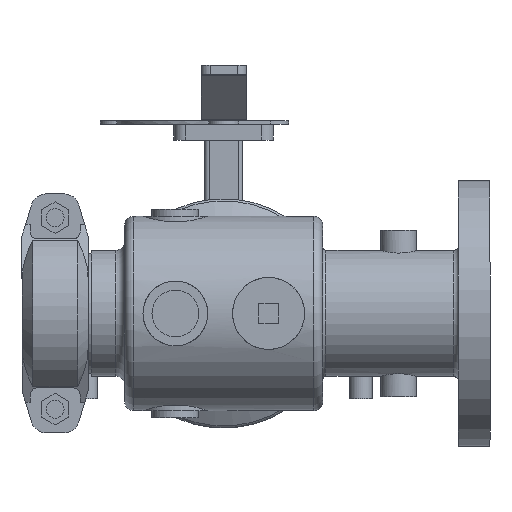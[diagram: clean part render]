
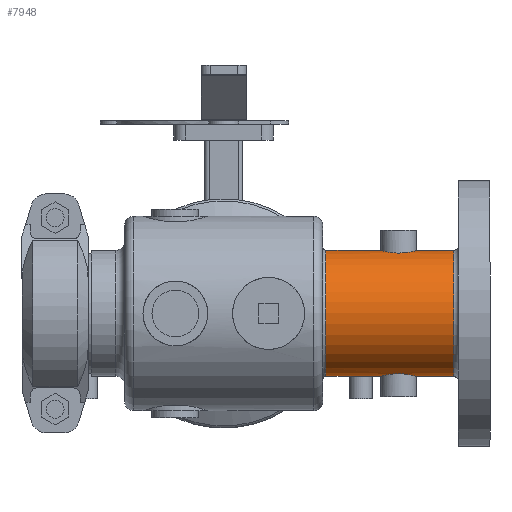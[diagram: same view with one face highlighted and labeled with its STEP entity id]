
A CAD part, front view. The second image highlights one B-rep face of the part: STEP entity #7948.
In plain terms, the highlighted cylindrical face has radius 44.45 mm (diameter 88.9 mm), a full revolution.
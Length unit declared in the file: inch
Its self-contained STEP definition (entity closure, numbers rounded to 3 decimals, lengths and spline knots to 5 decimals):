
#388=FACE_BOUND('',#1041,.T.);
#389=FACE_BOUND('',#1042,.T.);
#482=B_SPLINE_CURVE_WITH_KNOTS('',3,(#12947,#12948,#12949,#12950,#12951,
#12952,#12953,#12954,#12955,#12956,#12957,#12958,#12959,#12960,#12961,#12962,
#12963,#12964,#12965,#12966,#12967,#12968,#12969,#12970,#12971,#12972),
 .UNSPECIFIED.,.F.,.F.,(4,2,2,2,2,2,2,2,2,2,2,2,4),(0.,0.48136,
0.96271,1.44395,1.92519,2.40643,2.88767,
3.36903,3.85039,4.33175,4.8131,5.29434,
5.77558),.UNSPECIFIED.);
#483=B_SPLINE_CURVE_WITH_KNOTS('',3,(#12973,#12974,#12975,#12976,#12977,
#12978,#12979,#12980,#12981,#12982),.UNSPECIFIED.,.F.,.F.,(4,2,2,2,4),(5.77558,
6.25682,6.73806,7.21942,7.70078),
 .UNSPECIFIED.);
#484=B_SPLINE_CURVE_WITH_KNOTS('',3,(#12985,#12986,#12987,#12988,#12989,
#12990,#12991,#12992,#12993,#12994),.UNSPECIFIED.,.F.,.F.,(4,2,2,2,4),(0.,
0.48136,0.96271,1.44395,1.92519),
 .UNSPECIFIED.);
#485=B_SPLINE_CURVE_WITH_KNOTS('',3,(#12995,#12996,#12997,#12998,#12999,
#13000,#13001,#13002,#13003,#13004,#13005,#13006,#13007,#13008,#13009,#13010,
#13011,#13012,#13013,#13014,#13015,#13016,#13017,#13018,#13019,#13020),
 .UNSPECIFIED.,.F.,.F.,(4,2,2,2,2,2,2,2,2,2,2,2,4),(1.92519,2.40643,
2.88767,3.36903,3.85039,4.33175,4.8131,
5.29434,5.77558,6.25682,6.73806,7.21942,
7.70078),.UNSPECIFIED.);
#574=FACE_OUTER_BOUND('',#1040,.T.);
#1040=EDGE_LOOP('',(#5332,#5333,#5334,#5335,#5336,#5337,#5338,#5339));
#1041=EDGE_LOOP('',(#5340,#5341));
#1042=EDGE_LOOP('',(#5342,#5343));
#1570=CIRCLE('',#8604,1.75);
#1572=CIRCLE('',#8606,1.75);
#1573=CIRCLE('',#8607,1.75);
#1576=CIRCLE('',#8612,1.75);
#1577=CIRCLE('',#8613,1.75);
#1578=CIRCLE('',#8614,1.75);
#2002=LINE('',#12944,#2588);
#2588=VECTOR('',#9814,1.75);
#3215=VERTEX_POINT('',#12763);
#3216=VERTEX_POINT('',#12764);
#3217=VERTEX_POINT('',#12767);
#3222=VERTEX_POINT('',#12813);
#3223=VERTEX_POINT('',#12815);
#3224=VERTEX_POINT('',#12817);
#3252=VERTEX_POINT('',#12945);
#3253=VERTEX_POINT('',#12946);
#3254=VERTEX_POINT('',#12983);
#3255=VERTEX_POINT('',#12984);
#4008=EDGE_CURVE('',#3215,#3216,#1570,.T.);
#4010=EDGE_CURVE('',#3216,#3217,#1572,.T.);
#4011=EDGE_CURVE('',#3217,#3215,#1573,.T.);
#4016=EDGE_CURVE('',#3223,#3222,#1576,.T.);
#4017=EDGE_CURVE('',#3224,#3223,#1577,.T.);
#4018=EDGE_CURVE('',#3222,#3224,#1578,.T.);
#4059=EDGE_CURVE('',#3217,#3224,#2002,.T.);
#4060=EDGE_CURVE('',#3252,#3253,#482,.T.);
#4061=EDGE_CURVE('',#3253,#3252,#483,.T.);
#4062=EDGE_CURVE('',#3254,#3255,#484,.T.);
#4063=EDGE_CURVE('',#3255,#3254,#485,.T.);
#5332=ORIENTED_EDGE('',*,*,#4008,.F.);
#5333=ORIENTED_EDGE('',*,*,#4011,.F.);
#5334=ORIENTED_EDGE('',*,*,#4059,.T.);
#5335=ORIENTED_EDGE('',*,*,#4017,.T.);
#5336=ORIENTED_EDGE('',*,*,#4016,.T.);
#5337=ORIENTED_EDGE('',*,*,#4018,.T.);
#5338=ORIENTED_EDGE('',*,*,#4059,.F.);
#5339=ORIENTED_EDGE('',*,*,#4010,.F.);
#5340=ORIENTED_EDGE('',*,*,#4060,.T.);
#5341=ORIENTED_EDGE('',*,*,#4061,.T.);
#5342=ORIENTED_EDGE('',*,*,#4062,.T.);
#5343=ORIENTED_EDGE('',*,*,#4063,.T.);
#7309=CYLINDRICAL_SURFACE('',#8666,1.75);
#7948=ADVANCED_FACE('',(#574,#388,#389),#7309,.T.);
#8604=AXIS2_PLACEMENT_3D('',#12765,#9679,#9680);
#8606=AXIS2_PLACEMENT_3D('',#12768,#9683,#9684);
#8607=AXIS2_PLACEMENT_3D('',#12769,#9685,#9686);
#8612=AXIS2_PLACEMENT_3D('',#12816,#9695,#9696);
#8613=AXIS2_PLACEMENT_3D('',#12818,#9697,#9698);
#8614=AXIS2_PLACEMENT_3D('',#12819,#9699,#9700);
#8666=AXIS2_PLACEMENT_3D('',#12943,#9812,#9813);
#9679=DIRECTION('center_axis',(1.,0.,0.));
#9680=DIRECTION('ref_axis',(0.,0.,-1.));
#9683=DIRECTION('center_axis',(1.,0.,0.));
#9684=DIRECTION('ref_axis',(0.,0.,-1.));
#9685=DIRECTION('center_axis',(1.,0.,0.));
#9686=DIRECTION('ref_axis',(0.,0.,-1.));
#9695=DIRECTION('center_axis',(1.,0.,0.));
#9696=DIRECTION('ref_axis',(0.,0.,-1.));
#9697=DIRECTION('center_axis',(1.,0.,0.));
#9698=DIRECTION('ref_axis',(0.,0.,-1.));
#9699=DIRECTION('center_axis',(1.,0.,0.));
#9700=DIRECTION('ref_axis',(0.,0.,-1.));
#9812=DIRECTION('center_axis',(1.,0.,0.));
#9813=DIRECTION('ref_axis',(0.,1.,0.));
#9814=DIRECTION('',(-1.,0.,0.));
#12763=CARTESIAN_POINT('',(6.39,1.75,0.));
#12764=CARTESIAN_POINT('',(6.39,0.,1.75));
#12765=CARTESIAN_POINT('Origin',(6.39,0.,0.));
#12767=CARTESIAN_POINT('',(6.39,-1.75,0.));
#12768=CARTESIAN_POINT('Origin',(6.39,0.,0.));
#12769=CARTESIAN_POINT('Origin',(6.39,0.,0.));
#12813=CARTESIAN_POINT('',(2.84,0.,1.75));
#12815=CARTESIAN_POINT('',(2.84,1.75,0.));
#12816=CARTESIAN_POINT('Origin',(2.84,0.,0.));
#12817=CARTESIAN_POINT('',(2.84,-1.75,0.));
#12818=CARTESIAN_POINT('Origin',(2.84,0.,0.));
#12819=CARTESIAN_POINT('Origin',(2.84,0.,0.));
#12943=CARTESIAN_POINT('Origin',(4.945,0.,0.));
#12944=CARTESIAN_POINT('',(4.945,-1.75,0.));
#12945=CARTESIAN_POINT('',(4.86,-0.5,1.67705));
#12946=CARTESIAN_POINT('',(5.36,0.,1.75));
#12947=CARTESIAN_POINT('Ctrl Pts',(4.86,-0.5,1.67705));
#12948=CARTESIAN_POINT('Ctrl Pts',(4.79683,-0.5,1.67705));
#12949=CARTESIAN_POINT('Ctrl Pts',(4.72971,-0.4873,1.68099));
#12950=CARTESIAN_POINT('Ctrl Pts',(4.60663,-0.43617,
1.69498));
#12951=CARTESIAN_POINT('Ctrl Pts',(4.55065,-0.39775,
1.7048));
#12952=CARTESIAN_POINT('Ctrl Pts',(4.46226,-0.30936,
1.72303));
#12953=CARTESIAN_POINT('Ctrl Pts',(4.42383,-0.25337,
1.73267));
#12954=CARTESIAN_POINT('Ctrl Pts',(4.37269,-0.13028,
1.74624));
#12955=CARTESIAN_POINT('Ctrl Pts',(4.36,-0.06315,1.75));
#12956=CARTESIAN_POINT('Ctrl Pts',(4.36,0.06315,1.75));
#12957=CARTESIAN_POINT('Ctrl Pts',(4.37269,0.13028,1.74624));
#12958=CARTESIAN_POINT('Ctrl Pts',(4.42383,0.25337,1.73267));
#12959=CARTESIAN_POINT('Ctrl Pts',(4.46226,0.30936,1.72303));
#12960=CARTESIAN_POINT('Ctrl Pts',(4.55065,0.39775,1.7048));
#12961=CARTESIAN_POINT('Ctrl Pts',(4.60663,0.43617,1.69498));
#12962=CARTESIAN_POINT('Ctrl Pts',(4.72971,0.4873,1.68099));
#12963=CARTESIAN_POINT('Ctrl Pts',(4.79683,0.5,1.67705));
#12964=CARTESIAN_POINT('Ctrl Pts',(4.92317,0.5,1.67705));
#12965=CARTESIAN_POINT('Ctrl Pts',(4.99029,0.4873,1.68099));
#12966=CARTESIAN_POINT('Ctrl Pts',(5.11337,0.43617,1.69498));
#12967=CARTESIAN_POINT('Ctrl Pts',(5.16935,0.39775,1.7048));
#12968=CARTESIAN_POINT('Ctrl Pts',(5.25774,0.30936,1.72303));
#12969=CARTESIAN_POINT('Ctrl Pts',(5.29617,0.25337,1.73267));
#12970=CARTESIAN_POINT('Ctrl Pts',(5.34731,0.13028,1.74624));
#12971=CARTESIAN_POINT('Ctrl Pts',(5.36,0.06315,1.75));
#12972=CARTESIAN_POINT('Ctrl Pts',(5.36,0.,1.75));
#12973=CARTESIAN_POINT('Ctrl Pts',(5.36,0.,1.75));
#12974=CARTESIAN_POINT('Ctrl Pts',(5.36,-0.06315,1.75));
#12975=CARTESIAN_POINT('Ctrl Pts',(5.34731,-0.13028,
1.74624));
#12976=CARTESIAN_POINT('Ctrl Pts',(5.29617,-0.25337,
1.73267));
#12977=CARTESIAN_POINT('Ctrl Pts',(5.25774,-0.30936,
1.72303));
#12978=CARTESIAN_POINT('Ctrl Pts',(5.16935,-0.39775,
1.7048));
#12979=CARTESIAN_POINT('Ctrl Pts',(5.11337,-0.43617,
1.69498));
#12980=CARTESIAN_POINT('Ctrl Pts',(4.99029,-0.4873,
1.68099));
#12981=CARTESIAN_POINT('Ctrl Pts',(4.92317,-0.5,1.67705));
#12982=CARTESIAN_POINT('Ctrl Pts',(4.86,-0.5,1.67705));
#12983=CARTESIAN_POINT('',(4.86,-0.5,-1.67705));
#12984=CARTESIAN_POINT('',(5.36,0.,-1.75));
#12985=CARTESIAN_POINT('Ctrl Pts',(4.86,-0.5,-1.67705));
#12986=CARTESIAN_POINT('Ctrl Pts',(4.92317,-0.5,-1.67705));
#12987=CARTESIAN_POINT('Ctrl Pts',(4.99029,-0.4873,
-1.68099));
#12988=CARTESIAN_POINT('Ctrl Pts',(5.11337,-0.43617,
-1.69498));
#12989=CARTESIAN_POINT('Ctrl Pts',(5.16935,-0.39775,
-1.7048));
#12990=CARTESIAN_POINT('Ctrl Pts',(5.25774,-0.30936,
-1.72303));
#12991=CARTESIAN_POINT('Ctrl Pts',(5.29617,-0.25337,
-1.73267));
#12992=CARTESIAN_POINT('Ctrl Pts',(5.34731,-0.13028,
-1.74624));
#12993=CARTESIAN_POINT('Ctrl Pts',(5.36,-0.06315,-1.75));
#12994=CARTESIAN_POINT('Ctrl Pts',(5.36,0.,-1.75));
#12995=CARTESIAN_POINT('Ctrl Pts',(5.36,0.,-1.75));
#12996=CARTESIAN_POINT('Ctrl Pts',(5.36,0.06315,-1.75));
#12997=CARTESIAN_POINT('Ctrl Pts',(5.34731,0.13028,-1.74624));
#12998=CARTESIAN_POINT('Ctrl Pts',(5.29617,0.25337,-1.73267));
#12999=CARTESIAN_POINT('Ctrl Pts',(5.25774,0.30936,-1.72303));
#13000=CARTESIAN_POINT('Ctrl Pts',(5.16935,0.39775,-1.7048));
#13001=CARTESIAN_POINT('Ctrl Pts',(5.11337,0.43617,-1.69498));
#13002=CARTESIAN_POINT('Ctrl Pts',(4.99029,0.4873,-1.68099));
#13003=CARTESIAN_POINT('Ctrl Pts',(4.92317,0.5,-1.67705));
#13004=CARTESIAN_POINT('Ctrl Pts',(4.79683,0.5,-1.67705));
#13005=CARTESIAN_POINT('Ctrl Pts',(4.72971,0.4873,-1.68099));
#13006=CARTESIAN_POINT('Ctrl Pts',(4.60663,0.43617,-1.69498));
#13007=CARTESIAN_POINT('Ctrl Pts',(4.55065,0.39775,-1.7048));
#13008=CARTESIAN_POINT('Ctrl Pts',(4.46226,0.30936,-1.72303));
#13009=CARTESIAN_POINT('Ctrl Pts',(4.42383,0.25337,-1.73267));
#13010=CARTESIAN_POINT('Ctrl Pts',(4.37269,0.13028,-1.74624));
#13011=CARTESIAN_POINT('Ctrl Pts',(4.36,0.06315,-1.75));
#13012=CARTESIAN_POINT('Ctrl Pts',(4.36,-0.06315,-1.75));
#13013=CARTESIAN_POINT('Ctrl Pts',(4.37269,-0.13028,
-1.74624));
#13014=CARTESIAN_POINT('Ctrl Pts',(4.42383,-0.25337,
-1.73267));
#13015=CARTESIAN_POINT('Ctrl Pts',(4.46226,-0.30936,
-1.72303));
#13016=CARTESIAN_POINT('Ctrl Pts',(4.55065,-0.39775,
-1.7048));
#13017=CARTESIAN_POINT('Ctrl Pts',(4.60663,-0.43617,
-1.69498));
#13018=CARTESIAN_POINT('Ctrl Pts',(4.72971,-0.4873,-1.68099));
#13019=CARTESIAN_POINT('Ctrl Pts',(4.79683,-0.5,-1.67705));
#13020=CARTESIAN_POINT('Ctrl Pts',(4.86,-0.5,-1.67705));
